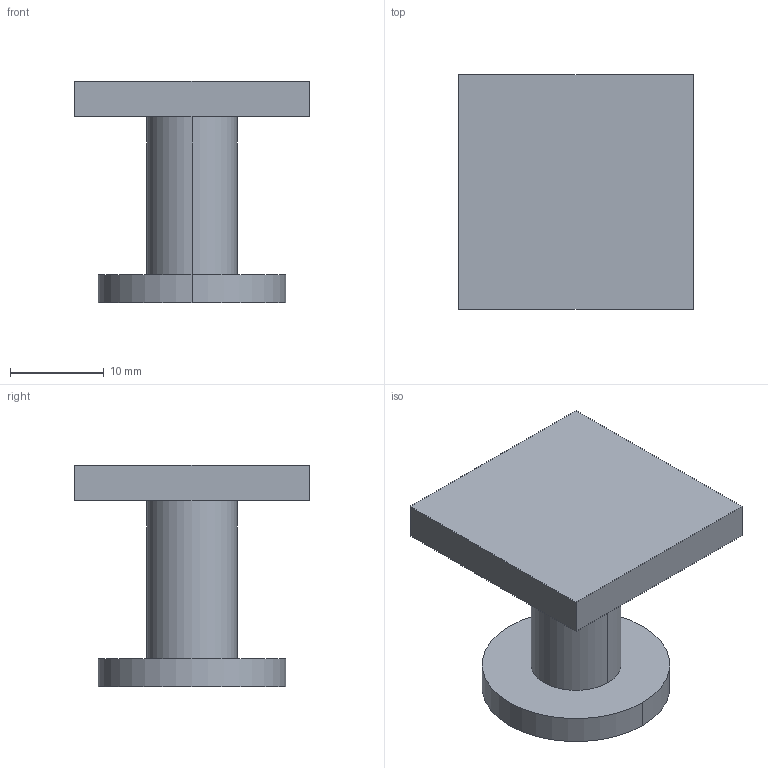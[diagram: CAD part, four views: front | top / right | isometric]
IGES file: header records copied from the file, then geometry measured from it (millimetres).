
Start section: Data from XPlus IGES,  Spatial Corp. Copyright (c) 1999-2004
Global section: file name: 9113224.igs; native system:  By Spatial Corp.; preprocessor: XPlus ACIS/IGES 3.0; author: Noname; organization: Noname; date: 20130226.190856; units: millimetre
Bounding box: 25 x 25 x 23.6 mm (x, y, z)
Surface area: 2934.4 mm2 (no closed solid volume)
Topology: 0 solids, 0 shells, 15 faces, 60 edges, 60 vertices
Faces by surface type: extrusion 9, revolution 6
